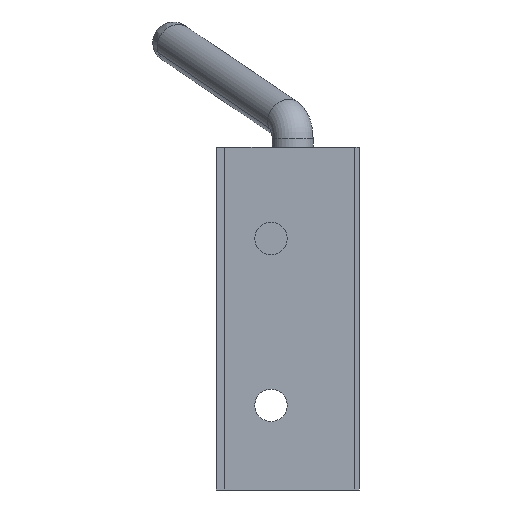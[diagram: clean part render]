
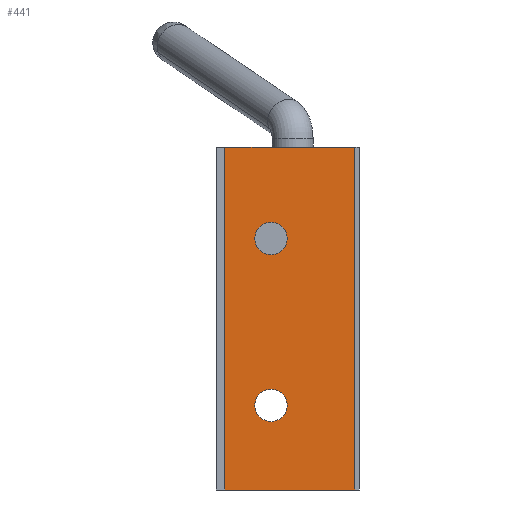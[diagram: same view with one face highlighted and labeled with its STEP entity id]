
A CAD part, front view. The second image highlights one B-rep face of the part: STEP entity #441.
In plain terms, the highlighted planar face has unit normal (0, -1, 0).
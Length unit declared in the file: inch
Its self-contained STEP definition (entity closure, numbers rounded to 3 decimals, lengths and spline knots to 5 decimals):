
#41=DIRECTION('',(1.,0.,0.));
#42=VECTOR('',#41,0.53745);
#43=CARTESIAN_POINT('',(-0.26068,-0.51575,
-0.70866));
#44=LINE('',#43,#42);
#45=DIRECTION('',(0.,0.,-1.));
#46=VECTOR('',#45,1.41732);
#47=CARTESIAN_POINT('',(-0.26068,-0.51575,
0.70866));
#48=LINE('',#47,#46);
#49=DIRECTION('',(-1.,0.,0.));
#50=VECTOR('',#49,0.53745);
#51=CARTESIAN_POINT('',(0.27678,-0.51575,
0.70866));
#52=LINE('',#51,#50);
#53=DIRECTION('',(0.,0.,1.));
#54=VECTOR('',#53,1.41732);
#55=CARTESIAN_POINT('',(0.27678,-0.51575,
-0.70866));
#56=LINE('',#55,#54);
#57=CARTESIAN_POINT('',(-0.06968,-0.51575,
-0.35866));
#58=DIRECTION('',(0.,1.,0.));
#59=DIRECTION('',(-1.,0.,0.));
#60=AXIS2_PLACEMENT_3D('',#57,#58,#59);
#62=CARTESIAN_POINT('',(-0.06968,-0.51575,
-0.35866));
#63=DIRECTION('',(0.,1.,0.));
#64=DIRECTION('',(1.,0.,0.));
#65=AXIS2_PLACEMENT_3D('',#62,#63,#64);
#67=CARTESIAN_POINT('',(-0.06968,-0.51575,
0.33134));
#68=DIRECTION('',(0.,1.,0.));
#69=DIRECTION('',(-1.,0.,0.));
#70=AXIS2_PLACEMENT_3D('',#67,#68,#69);
#72=CARTESIAN_POINT('',(-0.06968,-0.51575,
0.33134));
#73=DIRECTION('',(0.,1.,0.));
#74=DIRECTION('',(1.,0.,0.));
#75=AXIS2_PLACEMENT_3D('',#72,#73,#74);
#316=CARTESIAN_POINT('',(-0.26068,-0.51575,
-0.70866));
#317=CARTESIAN_POINT('',(0.27678,-0.51575,
-0.70866));
#318=VERTEX_POINT('',#316);
#319=VERTEX_POINT('',#317);
#320=CARTESIAN_POINT('',(0.27678,-0.51575,
0.70866));
#321=VERTEX_POINT('',#320);
#322=CARTESIAN_POINT('',(-0.26068,-0.51575,
0.70866));
#323=VERTEX_POINT('',#322);
#332=CARTESIAN_POINT('',(-0.13668,-0.51575,
-0.35866));
#333=CARTESIAN_POINT('',(-0.00268,-0.51575,
-0.35866));
#334=VERTEX_POINT('',#332);
#335=VERTEX_POINT('',#333);
#344=CARTESIAN_POINT('',(-0.13668,-0.51575,
0.33134));
#345=CARTESIAN_POINT('',(-0.00268,-0.51575,
0.33134));
#346=VERTEX_POINT('',#344);
#347=VERTEX_POINT('',#345);
#416=CARTESIAN_POINT('',(0.,-0.51575,-0.70866));
#417=DIRECTION('',(0.,-1.,0.));
#418=DIRECTION('',(-1.,0.,0.));
#419=AXIS2_PLACEMENT_3D('',#416,#417,#418);
#420=PLANE('',#419);
#421=ORIENTED_EDGE('',*,*,#357,.F.);
#423=ORIENTED_EDGE('',*,*,#422,.F.);
#425=ORIENTED_EDGE('',*,*,#424,.F.);
#426=ORIENTED_EDGE('',*,*,#409,.F.);
#427=EDGE_LOOP('',(#421,#423,#425,#426));
#428=FACE_OUTER_BOUND('',#427,.F.);
#430=ORIENTED_EDGE('',*,*,#429,.F.);
#432=ORIENTED_EDGE('',*,*,#431,.F.);
#433=EDGE_LOOP('',(#430,#432));
#434=FACE_BOUND('',#433,.F.);
#436=ORIENTED_EDGE('',*,*,#435,.F.);
#438=ORIENTED_EDGE('',*,*,#437,.F.);
#439=EDGE_LOOP('',(#436,#438));
#440=FACE_BOUND('',#439,.F.);
#441=ADVANCED_FACE('',(#428,#434,#440),#420,.T.);
#61=CIRCLE('',#60,0.067);
#66=CIRCLE('',#65,0.067);
#71=CIRCLE('',#70,0.067);
#76=CIRCLE('',#75,0.067);
#357=EDGE_CURVE('',#318,#319,#44,.T.);
#409=EDGE_CURVE('',#319,#321,#56,.T.);
#422=EDGE_CURVE('',#323,#318,#48,.T.);
#424=EDGE_CURVE('',#321,#323,#52,.T.);
#429=EDGE_CURVE('',#334,#335,#61,.T.);
#431=EDGE_CURVE('',#335,#334,#66,.T.);
#435=EDGE_CURVE('',#346,#347,#71,.T.);
#437=EDGE_CURVE('',#347,#346,#76,.T.);
